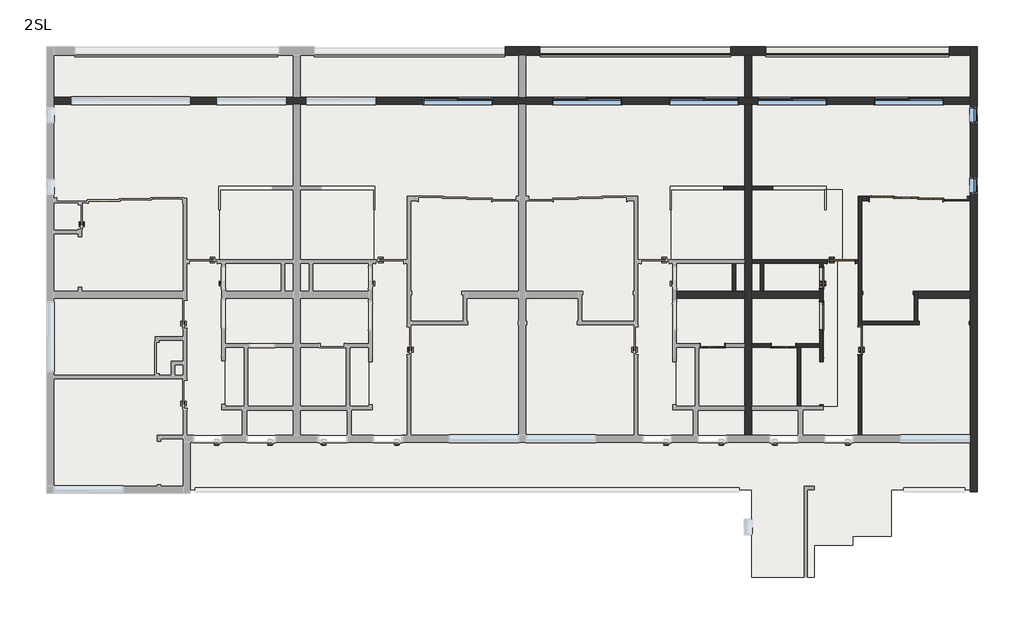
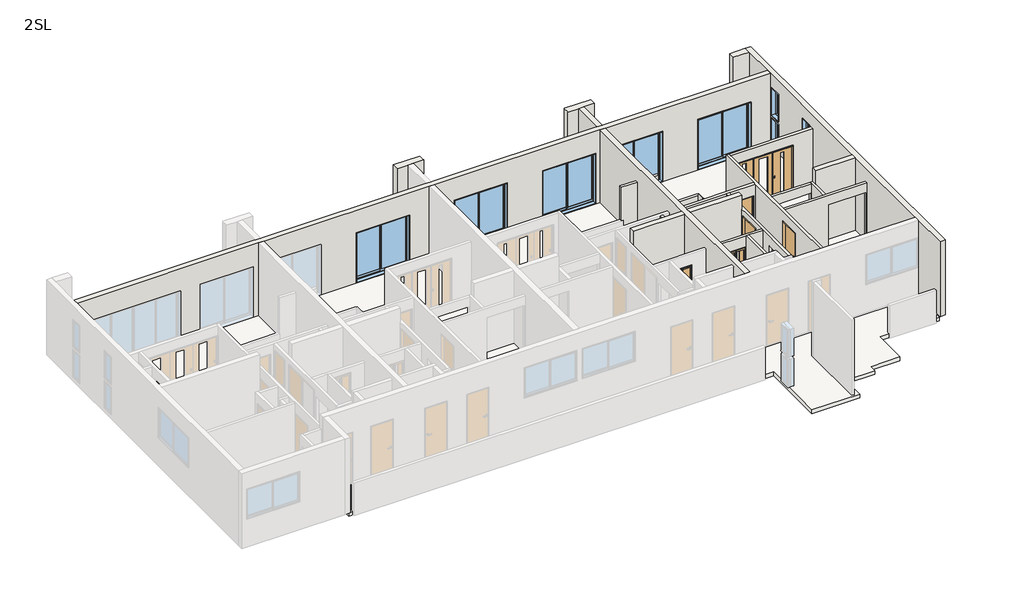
# One storey, part 3 of 3: 25 walls, 13 slabs, 9 windows, 7 doors, 4 railings, 2 plates.
"""IFC4 building model written with IfcOpenShell, lengths in millimetres."""

from ifc_helpers import new_model, si_unit, frame, origin, place, context, project, spatial, polyline, outline, extrude, faceted_brep, transform, mapped, element, save
from components import door_c7dcdbed, door_8f2de950, door_3b96e66a, door_6eb1cc95, door_aabc7979, door_3f60c47c, door_31a51f76, system_panel_37aab131, system_panel_3b8cd947, railing_1331f4de, railing_587aa39a, railing_6a31d35b, railing_5367abb0, window_4c3e1407, window_5dc29a3f, window_ec430ee0, window_a2a98c4b, w0450_h1100_93ba837a, w0450_h1100_e5a89885

model = new_model("IFC4")

# Units and contexts
model_context = context("Model", 3, world=origin())
ifc_project = project(units=[si_unit("LENGTHUNIT", "METRE", prefix="MILLI")], contexts=[model_context])

# Site, building, storey
site = spatial("IfcSite", under=ifc_project)
building = spatial("IfcBuilding", under=site)
storey = spatial("IfcBuildingStorey", under=building, Name="2SL", Elevation=4000.0)

# Doors
placement = place(None, origin())
door_shape = door_c7dcdbed(model_context)
element("IfcDoor", 1, ObjectType="木製_片開き_フラッシュ : WD-2 w600h2000", at=placement, inside=storey, context=model_context, shape_type="MappedRepresentation", body=[
    mapped(door_shape, transform((11454.3805905, 3696.254513, 4210.0), x_axis=(0.0, 1.0, 0.0), y_axis=(-1.0, 0.0, 0.0), z_axis=(0.0, 0.0, 1.0))),
])
door_2_shape = door_8f2de950(model_context)
element("IfcDoor", 2, ObjectType="木製_片開き_フラッシュ : WD-1\u3000w800h2000", at=placement, inside=storey, context=model_context, shape_type="MappedRepresentation", body=[
    mapped(door_2_shape, transform((12554.3805905, 1900.2598658, 4060.0), x_axis=(0.0, 1.0, 0.0), y_axis=(-1.0, 0.0, 0.0), z_axis=(0.0, 0.0, 1.0))),
])
door_3_shape = door_3b96e66a(model_context)
element("IfcDoor", 3, ObjectType="木製_片開き_フラッシュ : WD-1\u3000w800h2000", at=placement, inside=storey, context=model_context, shape_type="MappedRepresentation", body=[
    mapped(door_3_shape, transform((12014.3805905, 4160.2598658, 4000.0), x_axis=(1.0, 0.0, 0.0), y_axis=(0.0, 1.0, 0.0), z_axis=(0.0, 0.0, 1.0))),
])
door_4_shape = door_6eb1cc95(model_context)
element("IfcDoor", 4, ObjectType="木製_折戸2枚_フラッシュ(UB) : UB-1 w600h2000", at=placement, inside=storey, context=model_context, shape_type="MappedRepresentation", body=[
    mapped(door_4_shape, transform((8344.3805905, 1760.2598658, 4000.0), x_axis=(1.0, 0.0, 0.0), y_axis=(0.0, 1.0, 0.0), z_axis=(0.0, 0.0, 1.0))),
])
door_5_shape = door_aabc7979(model_context)
element("IfcDoor", 5, ObjectType="木製_折戸2枚_フラッシュ(UB) : UB-1 w600h2000", at=placement, inside=storey, context=model_context, shape_type="MappedRepresentation", body=[
    mapped(door_5_shape, transform((10364.3805905, 1760.2598658, 4000.0), x_axis=(-1.0, 0.0, 0.0), y_axis=(0.0, -1.0, 0.0), z_axis=(0.0, 0.0, 1.0))),
])
door_6_shape = door_3f60c47c(model_context)
element("IfcDoor", 6, ObjectType="木製_片引き_フラッシュ : WD-4 w800h2000", at=placement, inside=storey, context=model_context, shape_type="MappedRepresentation", body=[
    mapped(door_6_shape, transform((11454.3805905, 2610.719009, 4210.0), x_axis=(0.0, -1.0, 0.0), y_axis=(1.0, 0.0, 0.0), z_axis=(0.0, 0.0, 1.0))),
])
door_7_shape = door_31a51f76(model_context)
element("IfcDoor", 7, ObjectType="木製_片引き3枚_フラッシュ2 : WD-9 w2100h2000", at=placement, inside=storey, context=model_context, shape_type="MappedRepresentation", body=[
    mapped(door_7_shape, transform((13879.9160944, 5960.2598658, 4060.0), x_axis=(1.0, 0.0, 0.0), y_axis=(0.0, 1.0, 0.0), z_axis=(0.0, 0.0, 1.0))),
])

# Plates
system_panel_shape = system_panel_37aab131(model_context)
element("IfcPlate", 8, ObjectType="システム パネル : System Panel", at=placement, inside=storey, context=model_context, shape_type="MappedRepresentation", body=[
    mapped(system_panel_shape, transform((6129.3805905, 10097.7598658, 4000.0), x_axis=(1.0, 0.0, 0.0), y_axis=(0.0, 1.0, 0.0), z_axis=(0.0, 0.0, 1.0))),
])
system_panel_2_shape = system_panel_3b8cd947(model_context)
element("IfcPlate", 9, ObjectType="システム パネル : System Panel", at=placement, inside=storey, context=model_context, shape_type="MappedRepresentation", body=[
    mapped(system_panel_2_shape, transform((12479.3805905, 10097.7598658, 4000.0), x_axis=(-1.0, 0.0, 0.0), y_axis=(0.0, -1.0, 0.0), z_axis=(0.0, 0.0, 1.0))),
])

# Railings
railing_shape = railing_1331f4de(model_context)
element("IfcRailing", 10, ObjectType="バルコニー手摺", at=placement, inside=storey, context=model_context, shape_type="MappedRepresentation", body=[
    mapped(railing_shape, transform((0.0, 0.0, 0.0), x_axis=(1.0, 0.0, 0.0), y_axis=(0.0, 1.0, 0.0), z_axis=(0.0, 0.0, 1.0))),
])
railing_2_shape = railing_587aa39a(model_context)
element("IfcRailing", 11, ObjectType="バルコニー手摺", at=placement, inside=storey, context=model_context, shape_type="MappedRepresentation", body=[
    mapped(railing_2_shape, transform((0.0, 0.0, 0.0), x_axis=(1.0, 0.0, 0.0), y_axis=(0.0, 1.0, 0.0), z_axis=(0.0, 0.0, 1.0))),
])
railing_3_shape = railing_6a31d35b(model_context)
element("IfcRailing", 12, ObjectType="バルコニー手摺", at=placement, inside=storey, context=model_context, shape_type="MappedRepresentation", body=[
    mapped(railing_3_shape, transform((0.0, 0.0, 0.0), x_axis=(1.0, 0.0, 0.0), y_axis=(0.0, 1.0, 0.0), z_axis=(0.0, 0.0, 1.0))),
])
railing_4_shape = railing_5367abb0(model_context)
element("IfcRailing", 13, ObjectType="バルコニー手摺", at=placement, inside=storey, context=model_context, shape_type="MappedRepresentation", body=[
    mapped(railing_4_shape, transform((0.0, 0.0, 0.0), x_axis=(1.0, 0.0, 0.0), y_axis=(0.0, 1.0, 0.0), z_axis=(0.0, 0.0, 1.0))),
])

# Slabs
element("IfcSlab", 14, ObjectType="SCON150", at=placement, inside=storey, context=model_context, shape_type="SweptSolid", body=[
    extrude(outline(polyline([(-10495.6194095, 10059.9866207), (-3645.6194095, 10059.9866207), (-3645.6194095, 8760.2598658), (-10495.6194095, 8760.2598658), (-10495.6194095, 10059.9866207)])), frame((0.0, 0.0, 3750.0), z_axis=(0.0, 0.0, 1.0), x_axis=(1.0, 0.0, 0.0)), (0.0, 0.0, 1.0), 150.0),
])
element("IfcSlab", 15, ObjectType="SCON150", at=placement, inside=storey, context=model_context, shape_type="SweptSolid", body=[
    extrude(outline(polyline([(15704.3805905, 8760.2598658), (9454.3805905, 8760.2598658), (9454.3805905, 10059.9866207), (15704.3805905, 10059.9866207), (15704.3805905, 8760.2598658)])), frame((0.0, 0.0, 3750.0), z_axis=(0.0, 0.0, 1.0), x_axis=(1.0, 0.0, 0.0)), (0.0, 0.0, 1.0), 150.0),
])
element("IfcSlab", 16, ObjectType="SCON150+100", at=placement, inside=storey, context=model_context, shape_type="SweptSolid", body=[
    extrude(outline(polyline([(-10495.6194095, 8760.2598658), (-3645.6194095, 8760.2598658), (-3645.6194095, 6215.254513), (-5745.6194095, 6215.254513), (-5745.6194095, 4210.2598658), (-5595.6194095, 4210.2598658), (-5595.6194095, 30.2598658), (-3645.6194095, 30.2598658), (-3645.6194095, -809.7401342), (-6795.6194095, -809.7401342), (-6795.6194095, -2259.7401342), (-10495.6194095, -2259.7401342), (-10495.6194095, 8760.2598658)])), frame((0.0, 0.0, 3850.0), z_axis=(0.0, 0.0, 1.0), x_axis=(1.0, 0.0, 0.0)), (0.0, 0.0, 1.0), 250.0),
])
element("IfcSlab", 17, ObjectType="SCON150+210", at=placement, inside=storey, context=model_context, shape_type="SweptSolid", body=[
    extrude(outline(polyline([(-5745.6194095, 6215.254513), (-3645.6194095, 6215.254513), (-3645.6194095, 30.2598658), (-5595.6194095, 30.2598658), (-5595.6194095, 4210.2598658), (-5745.6194095, 4210.2598658), (-5745.6194095, 6215.254513)])), frame((0.0, 0.0, 3850.0), z_axis=(0.0, 0.0, 1.0), x_axis=(1.0, 0.0, 0.0)), (0.0, 0.0, 1.0), 360.0),
])
element("IfcSlab", 18, ObjectType="SCON150+100", at=placement, inside=storey, context=model_context, shape_type="SweptSolid", body=[
    extrude(outline(polyline([(2804.3805905, 8760.2598658), (2804.3805905, -809.7401342), (-3445.6194095, -809.7401342), (-3445.6194095, 30.2598658), (-1495.6194095, 30.2598658), (-1495.6194095, 4210.2598658), (-1345.6194095, 4210.2598658), (-1345.6194095, 6215.254513), (-3445.6194095, 6215.254513), (-3445.6194095, 8760.2598658), (2804.3805905, 8760.2598658)])), frame((0.0, 0.0, 3850.0), z_axis=(0.0, 0.0, 1.0), x_axis=(1.0, 0.0, 0.0)), (0.0, 0.0, 1.0), 250.0),
])
element("IfcSlab", 19, ObjectType="SCON150+210", at=placement, inside=storey, context=model_context, shape_type="SweptSolid", body=[
    extrude(outline(polyline([(-1345.6194095, 6215.254513), (-1345.6194095, 4210.2598658), (-1495.6194095, 4210.2598658), (-1495.6194095, 30.2598658), (-3445.6194095, 30.2598658), (-3445.6194095, 6215.254513), (-1345.6194095, 6215.254513)])), frame((0.0, 0.0, 3850.0), z_axis=(0.0, 0.0, 1.0), x_axis=(1.0, 0.0, 0.0)), (0.0, 0.0, 1.0), 360.0),
])
element("IfcSlab", 20, ObjectType="SCON150+100", at=placement, inside=storey, context=model_context, shape_type="SweptSolid", body=[
    extrude(outline(polyline([(3004.3805905, 8660.2598658), (9254.3805905, 8660.2598658), (9254.3805905, 6215.254513), (7154.3805905, 6215.254513), (7154.3805905, 4210.2598658), (7304.3805905, 4210.2598658), (7304.3805905, 30.2598658), (9254.3805905, 30.2598658), (9254.3805905, -809.7401342), (3004.3805905, -809.7401342), (3004.3805905, 8660.2598658)])), frame((0.0, 0.0, 3850.0), z_axis=(0.0, 0.0, 1.0), x_axis=(1.0, 0.0, 0.0)), (0.0, 0.0, 1.0), 250.0),
])
element("IfcSlab", 21, ObjectType="SCON150+210", at=placement, inside=storey, context=model_context, shape_type="SweptSolid", body=[
    extrude(outline(polyline([(7154.3805905, 6215.254513), (9254.3805905, 6215.254513), (9254.3805905, 30.2598658), (7304.3805905, 30.2598658), (7304.3805905, 4210.2598658), (7154.3805905, 4210.2598658), (7154.3805905, 6215.254513)])), frame((0.0, 0.0, 3850.0), z_axis=(0.0, 0.0, 1.0), x_axis=(1.0, 0.0, 0.0)), (0.0, 0.0, 1.0), 360.0),
])
element("IfcSlab", 22, ObjectType="SCON150+100", at=placement, inside=storey, context=model_context, shape_type="SweptSolid", body=[
    extrude(outline(polyline([(15704.3805905, -809.7401342), (9454.3805905, -809.7401342), (9454.3805905, 30.2598658), (11904.3805905, 30.2598658), (11904.3805905, 4210.2598658), (12054.3805905, 4210.2598658), (12054.3805905, 6215.254513), (9454.3805905, 6215.254513), (9454.3805905, 8660.2598658), (15704.3805905, 8660.2598658), (15704.3805905, -809.7401342)])), frame((0.0, 0.0, 3850.0), z_axis=(0.0, 0.0, 1.0), x_axis=(1.0, 0.0, 0.0)), (0.0, 0.0, 1.0), 250.0),
])
element("IfcSlab", 23, ObjectType="SCON150+210", at=placement, inside=storey, context=model_context, shape_type="SweptSolid", body=[
    extrude(outline(polyline([(12054.3805905, 6215.254513), (12054.3805905, 4210.2598658), (11904.3805905, 4210.2598658), (11904.3805905, 30.2598658), (9454.3805905, 30.2598658), (9454.3805905, 6215.254513), (12054.3805905, 6215.254513)])), frame((0.0, 0.0, 3850.0), z_axis=(0.0, 0.0, 1.0), x_axis=(1.0, 0.0, 0.0)), (0.0, 0.0, 1.0), 360.0),
])
element("IfcSlab", 24, ObjectType="SCON150", at=placement, inside=storey, context=model_context, shape_type="SweptSolid", body=[
    extrude(outline(polyline([(-6595.6194095, -1009.7401342), (15704.3805905, -1009.7401342), (15704.3805905, -2359.7401342), (13454.3805905, -2359.7401342), (13454.3805905, -3689.7401342), (12354.3805905, -3689.7401342), (12354.3805905, -3949.7401342), (11254.3805905, -3949.7401342), (11254.3805905, -4869.7401342), (9454.3805905, -4869.7401342), (9454.3805905, -2359.7401342), (-6595.6194095, -2359.7401342), (-6595.6194095, -1009.7401342)])), frame((0.0, 0.0, 3800.0), z_axis=(0.0, 0.0, 1.0), x_axis=(1.0, 0.0, 0.0)), (0.0, 0.0, 1.0), 150.0),
])
element("IfcSlab", 25, ObjectType="SCON150", at=placement, inside=storey, context=model_context, shape_type="SweptSolid", body=[
    extrude(outline(polyline([(3004.3805905, 10059.9866207), (9254.3805905, 10059.9866207), (9254.3805905, 8760.2598658), (3004.3805905, 8760.2598658), (3004.3805905, 10059.9866207)])), frame((0.0, 0.0, 3750.0), z_axis=(0.0, 0.0, 1.0), x_axis=(1.0, 0.0, 0.0)), (0.0, 0.0, 1.0), 150.0),
])
element("IfcSlab", 26, ObjectType="SCON150", at=placement, inside=storey, context=model_context, shape_type="SweptSolid", body=[
    extrude(outline(polyline([(2804.3805905, 10099.9866207), (2804.3805905, 8760.2598658), (-3445.6194095, 8760.2598658), (-3445.6194095, 10099.9866207), (2804.3805905, 10099.9866207)])), frame((0.0, 0.0, 3800.0), z_axis=(0.0, 0.0, 1.0), x_axis=(1.0, 0.0, 0.0)), (0.0, 0.0, 1.0), 150.0),
])

# Walls
element("IfcWall", 27, ObjectType="(F)30", at=placement, inside=storey, context=model_context, shape_type="Brep", body=[
    faceted_brep([(11553.8805905, 6215.254513, 4060.0), (11553.8805905, 5645.254513, 4060.0), (11553.8805905, 5645.254513, 5120.0), (11553.8805905, 6215.254513, 5120.0), (11583.8805905, 6215.254513, 4060.0), (11583.8805905, 6215.254513, 5060.0), (11583.8805905, 6215.254513, 5120.0), (11583.8805905, 5645.254513, 5120.0), (11583.8805905, 5645.254513, 4060.0)], [[[0, 1, 2, 3]], [[4, 5, 6, 7, 8]], [[1, 0, 4, 8]], [[2, 1, 8, 7]], [[3, 2, 7, 6]], [[0, 3, 6, 5, 4]]]),
])
element("IfcWall", 28, ObjectType="(L)100", at=placement, inside=storey, context=model_context, shape_type="SweptSolid", body=[
    extrude(outline(polyline([(9254.3805905, 6215.254513), (8654.3805905, 6215.254513), (8654.3805905, 6315.254513), (9254.3805905, 6315.254513), (9254.3805905, 6215.254513)])), frame((0.0, 0.0, 4000.0), z_axis=(0.0, 0.0, 1.0), x_axis=(1.0, 0.0, 0.0)), (0.0, 0.0, 1.0), 2400.0),
])
element("IfcWall", 29, ObjectType="(L)100", at=placement, inside=storey, context=model_context, shape_type="SweptSolid", body=[
    extrude(outline(polyline([(8904.3805905, 3310.2598658), (8904.3805905, 4110.2598658), (9004.3805905, 4110.2598658), (9004.3805905, 3310.2598658), (8904.3805905, 3310.2598658)])), frame((0.0, 0.0, 4000.0), z_axis=(0.0, 0.0, 1.0), x_axis=(1.0, 0.0, 0.0)), (0.0, 0.0, 1.0), 2460.0),
])
element("IfcWall", 30, ObjectType="(L)100", at=placement, inside=storey, context=model_context, shape_type="Brep", body=[
    faceted_brep([(12504.3805905, 1480.2598658, 6080.0), (12504.3805905, 1480.2598658, 4060.0), (12504.3805905, -809.7401342, 4060.0), (12504.3805905, -809.7401342, 6460.0), (12504.3805905, 4110.2598658, 6460.0), (12504.3805905, 4210.2598658, 6460.0), (12504.3805905, 6022.7598658, 6460.0), (12504.3805905, 6022.7598658, 4060.0), (12504.3805905, 2320.2598658, 4060.0), (12504.3805905, 2320.2598658, 6080.0), (12604.3805905, -809.7401342, 4060.0), (12604.3805905, 1480.2598658, 4060.0), (12604.3805905, 1480.2598658, 6080.0), (12604.3805905, 2320.2598658, 6080.0), (12604.3805905, 2320.2598658, 4060.0), (12604.3805905, 2360.2598658, 4060.0), (12604.3805905, 2460.2598658, 4060.0), (12604.3805905, 5897.7598658, 4060.0), (12604.3805905, 6022.7598658, 4060.0), (12604.3805905, 6022.7598658, 6460.0), (12604.3805905, 5897.7598658, 6460.0), (12604.3805905, 3310.2598658, 6460.0), (12604.3805905, 3210.2598658, 6460.0), (12604.3805905, 2460.2598658, 6460.0), (12604.3805905, 2360.2598658, 6460.0), (12604.3805905, -809.7401342, 6460.0)], [[[0, 1, 2, 3, 4, 5, 6, 7, 8, 9]], [[10, 11, 12, 13, 14, 15, 16, 17, 18, 19, 20, 21, 22, 23, 24, 25]], [[2, 1, 11, 10]], [[8, 7, 18, 17, 16, 15, 14]], [[6, 5, 4, 3, 25, 24, 23, 22, 21, 20, 19]], [[7, 6, 19, 18]], [[3, 2, 10, 25]], [[14, 13, 9, 8]], [[12, 11, 1, 0]], [[13, 12, 0, 9]]]),
])
element("IfcWall", 31, ObjectType="(L)100", at=placement, inside=storey, context=model_context, shape_type="Brep", body=[
    faceted_brep([(15704.3805905, 2460.2598658, 4060.0), (15684.3805905, 2460.2598658, 4060.0), (15684.3805905, 2460.2598658, 6080.0), (14244.3805905, 2460.2598658, 6080.0), (14244.3805905, 2460.2598658, 4060.0), (12604.3805905, 2460.2598658, 4060.0), (12604.3805905, 2460.2598658, 6460.0), (14104.3805905, 2460.2598658, 6460.0), (14204.3805905, 2460.2598658, 6460.0), (15704.3805905, 2460.2598658, 6460.0), (15684.3805905, 2360.2598658, 6080.0), (15684.3805905, 2360.2598658, 4060.0), (15704.3805905, 2360.2598658, 4060.0), (15704.3805905, 2360.2598658, 6460.0), (12604.3805905, 2360.2598658, 6460.0), (12604.3805905, 2360.2598658, 4060.0), (14244.3805905, 2360.2598658, 4060.0), (14244.3805905, 2360.2598658, 6080.0)], [[[0, 1, 2, 3, 4, 5, 6, 7, 8, 9]], [[10, 11, 12, 13, 14, 15, 16, 17]], [[12, 11, 1, 0]], [[16, 15, 5, 4]], [[9, 8, 7, 6, 14, 13]], [[0, 9, 13, 12]], [[6, 5, 15, 14]], [[4, 3, 17, 16]], [[2, 1, 11, 10]], [[3, 2, 10, 17]]]),
])
element("IfcWall", 32, ObjectType="(L)100", at=placement, inside=storey, context=model_context, shape_type="Brep", body=[
    faceted_brep([(14104.3805905, 3310.2598658, 4000.0), (14104.3805905, 3210.2598658, 4000.0), (14104.3805905, 2460.2598658, 4000.0), (14104.3805905, 2460.2598658, 6460.0), (14104.3805905, 3210.2598658, 6460.0), (14104.3805905, 3310.2598658, 6460.0), (14204.3805905, 3310.2598658, 4000.0), (14204.3805905, 3310.2598658, 6460.0), (14204.3805905, 2460.2598658, 6460.0), (14204.3805905, 2460.2598658, 4000.0), (14204.3805905, 3110.2598658, 4000.0)], [[[0, 1, 2, 3, 4, 5]], [[6, 7, 8, 9, 10]], [[2, 1, 0, 6, 10, 9]], [[5, 4, 3, 8, 7]], [[0, 5, 7, 6]], [[3, 2, 9, 8]]]),
])
element("IfcWall", 33, ObjectType="(L)100", at=placement, inside=storey, context=model_context, shape_type="Brep", body=[
    faceted_brep([(11504.3805905, 4110.2598658, 6460.0), (11504.3805905, 30.2598658, 6460.0), (11504.3805905, 30.2598658, 4060.0), (11504.3805905, 60.2598658, 4060.0), (11504.3805905, 60.2598658, 6080.0), (11504.3805905, 1300.2598658, 6080.0), (11504.3805905, 1300.2598658, 4060.0), (11504.3805905, 4110.2598658, 4060.0), (11504.3805905, 1396.254513, 6230.0), (11504.3805905, 3036.254513, 6230.0), (11504.3805905, 3036.254513, 4210.0), (11504.3805905, 1396.254513, 4210.0), (11504.3805905, 4016.254513, 6230.0), (11504.3805905, 4016.254513, 4210.0), (11504.3805905, 3376.254513, 4210.0), (11504.3805905, 3376.254513, 6230.0), (11404.3805905, 30.2598658, 6460.0), (11404.3805905, 1710.2598658, 6460.0), (11404.3805905, 1810.2598658, 6460.0), (11404.3805905, 4110.2598658, 6460.0), (11404.3805905, 4110.2598658, 4060.0), (11404.3805905, 1300.2598658, 4060.0), (11404.3805905, 1300.2598658, 6080.0), (11404.3805905, 60.2598658, 6080.0), (11404.3805905, 60.2598658, 4060.0), (11404.3805905, 30.2598658, 4060.0), (11404.3805905, 3036.254513, 6230.0), (11404.3805905, 2196.254513, 6230.0), (11404.3805905, 2196.254513, 4210.0), (11404.3805905, 3036.254513, 4210.0), (11404.3805905, 4016.254513, 4210.0), (11404.3805905, 4016.254513, 6230.0), (11404.3805905, 3376.254513, 6230.0), (11404.3805905, 3376.254513, 4210.0), (11474.3805905, 1396.254513, 6230.0), (11474.3805905, 2196.254513, 6230.0), (11474.3805905, 2196.254513, 4210.0), (11474.3805905, 1396.254513, 4210.0)], [[[0, 1, 2, 3, 4, 5, 6, 7], [8, 9, 10, 11], [12, 13, 14, 15]], [[16, 17, 18, 19, 20, 21, 22, 23, 24, 25], [26, 27, 28, 29], [30, 31, 32, 33]], [[20, 7, 6, 21]], [[2, 25, 24, 3]], [[1, 0, 19, 18, 17, 16]], [[0, 7, 20, 19]], [[2, 1, 16, 25]], [[5, 22, 21, 6]], [[23, 4, 3, 24]], [[22, 5, 4, 23]], [[34, 35, 27, 26, 9, 8]], [[9, 26, 29, 10]], [[36, 37, 11, 10, 29, 28]], [[35, 36, 28, 27]], [[35, 34, 37, 36]], [[37, 34, 8, 11]], [[12, 31, 30, 13]], [[13, 30, 33, 14]], [[14, 33, 32, 15]], [[31, 12, 15, 32]]]),
])
element("IfcWall", 34, ObjectType="(L)100", at=placement, inside=storey, context=model_context, shape_type="SweptSolid", body=[
    extrude(outline(polyline([(9454.3805905, 6315.254513), (10054.3805905, 6315.254513), (10054.3805905, 6215.254513), (9454.3805905, 6215.254513), (9454.3805905, 6315.254513)])), frame((0.0, 0.0, 4000.0), z_axis=(0.0, 0.0, 1.0), x_axis=(1.0, 0.0, 0.0)), (0.0, 0.0, 1.0), 2400.0),
])
element("IfcWall", 35, ObjectType="(L)100", at=placement, inside=storey, context=model_context, shape_type="Brep", body=[
    faceted_brep([(9979.3805905, 6215.254513, 4060.0), (11553.8805905, 6215.254513, 4060.0), (11583.8805905, 6215.254513, 4060.0), (11583.8805905, 6215.254513, 5060.0), (9979.3805905, 6215.254513, 5060.0), (9979.3805905, 6315.254513, 4060.0), (9979.3805905, 6315.254513, 5060.0), (11583.8805905, 6315.254513, 5060.0), (11583.8805905, 6315.254513, 4060.0)], [[[0, 1, 2, 3, 4]], [[5, 6, 7, 8]], [[2, 1, 0, 5, 8]], [[4, 3, 7, 6]], [[0, 4, 6, 5]], [[3, 2, 8, 7]]]),
])
element("IfcWall", 36, ObjectType="(L)100", at=placement, inside=storey, context=model_context, shape_type="SweptSolid", body=[
    extrude(outline(polyline([(9704.3805905, 3310.2598658), (9704.3805905, 4110.2598658), (9804.3805905, 4110.2598658), (9804.3805905, 3310.2598658), (9704.3805905, 3310.2598658)])), frame((0.0, 0.0, 4000.0), z_axis=(0.0, 0.0, 1.0), x_axis=(1.0, 0.0, 0.0)), (0.0, 0.0, 1.0), 2460.0),
])
element("IfcWall", 37, ObjectType="(L)100", at=placement, inside=storey, context=model_context, shape_type="Brep", body=[
    faceted_brep([(10734.3805905, 1710.2598658, 6020.0), (10734.3805905, 1710.2598658, 4000.0), (10764.3805905, 1710.2598658, 4000.0), (10864.3805905, 1710.2598658, 4000.0), (11404.3805905, 1710.2598658, 4000.0), (11404.3805905, 1710.2598658, 6460.0), (10864.3805905, 1710.2598658, 6460.0), (10764.3805905, 1710.2598658, 6460.0), (9454.3805905, 1710.2598658, 6460.0), (9454.3805905, 1710.2598658, 4000.0), (9994.3805905, 1710.2598658, 4000.0), (9994.3805905, 1710.2598658, 6020.0), (11404.3805905, 1810.2598658, 4000.0), (10734.3805905, 1810.2598658, 4000.0), (10734.3805905, 1810.2598658, 6020.0), (9994.3805905, 1810.2598658, 6020.0), (9994.3805905, 1810.2598658, 4000.0), (9454.3805905, 1810.2598658, 4000.0), (9454.3805905, 1810.2598658, 6460.0), (11404.3805905, 1810.2598658, 6460.0)], [[[0, 1, 2, 3, 4, 5, 6, 7, 8, 9, 10, 11]], [[12, 13, 14, 15, 16, 17, 18, 19]], [[4, 3, 2, 1, 13, 12]], [[10, 9, 17, 16]], [[8, 7, 6, 5, 19, 18]], [[9, 8, 18, 17]], [[5, 4, 12, 19]], [[16, 15, 11, 10]], [[14, 13, 1, 0]], [[15, 14, 0, 11]]]),
])
element("IfcWall", 38, ObjectType="(L)100", at=placement, inside=storey, context=model_context, shape_type="Brep", body=[
    faceted_brep([(9454.3805905, 4110.2598658, 4000.0), (9704.3805905, 4110.2598658, 4000.0), (9804.3805905, 4110.2598658, 4000.0), (11594.3805905, 4110.2598658, 4000.0), (11594.3805905, 4110.2598658, 6020.0), (12434.3805905, 4110.2598658, 6020.0), (12434.3805905, 4110.2598658, 4000.0), (12504.3805905, 4110.2598658, 4000.0), (12504.3805905, 4110.2598658, 6460.0), (11504.3805905, 4110.2598658, 6460.0), (11404.3805905, 4110.2598658, 6460.0), (9804.3805905, 4110.2598658, 6460.0), (9704.3805905, 4110.2598658, 6460.0), (9454.3805905, 4110.2598658, 6460.0), (11594.3805905, 4210.2598658, 6020.0), (11594.3805905, 4210.2598658, 4000.0), (9454.3805905, 4210.2598658, 4000.0), (9454.3805905, 4210.2598658, 6460.0), (12504.3805905, 4210.2598658, 6460.0), (12504.3805905, 4210.2598658, 4000.0), (12434.3805905, 4210.2598658, 4000.0), (12434.3805905, 4210.2598658, 6020.0)], [[[0, 1, 2, 3, 4, 5, 6, 7, 8, 9, 10, 11, 12, 13]], [[14, 15, 16, 17, 18, 19, 20, 21]], [[16, 15, 3, 2, 1, 0]], [[20, 19, 7, 6]], [[13, 12, 11, 10, 9, 8, 18, 17]], [[0, 13, 17, 16]], [[8, 7, 19, 18]], [[6, 5, 21, 20]], [[4, 3, 15, 14]], [[5, 4, 14, 21]]]),
])
element("IfcWall", 39, ObjectType="(L)100", at=placement, inside=storey, context=model_context, shape_type="SweptSolid", body=[
    extrude(outline(polyline([(4000.0, 12604.3805905), (4000.0, 14104.3805905), (6460.0, 14104.3805905), (6460.0, 12604.3805905), (4000.0, 12604.3805905)]), holes=[polyline([(4060.0, 14074.3805905), (4060.0, 12634.3805905), (6080.0, 12634.3805905), (6080.0, 14074.3805905), (4060.0, 14074.3805905)])]), frame((0.0, 3210.2598658, 0.0), z_axis=(0.0, 1.0, 0.0), x_axis=(0.0, 0.0, 1.0)), (0.0, 0.0, 1.0), 100.0),
])
element("IfcWall", 40, ObjectType="(L)100", at=placement, inside=storey, context=model_context, shape_type="SweptSolid", body=[
    extrude(outline(polyline([(10764.3805905, 30.2598658), (10764.3805905, 1710.2598658), (10864.3805905, 1710.2598658), (10864.3805905, 30.2598658), (10764.3805905, 30.2598658)])), frame((0.0, 0.0, 4000.0), z_axis=(0.0, 0.0, 1.0), x_axis=(1.0, 0.0, 0.0)), (0.0, 0.0, 1.0), 2460.0),
])
element("IfcWall", 41, ObjectType="(L1)125", at=placement, inside=storey, context=model_context, shape_type="Brep", body=[
    faceted_brep([(15704.3805905, 5897.7598658, 6460.0), (12604.3805905, 5897.7598658, 6460.0), (12604.3805905, 5897.7598658, 4060.0), (12804.3805905, 5897.7598658, 4060.0), (12804.3805905, 5897.7598658, 6080.0), (14944.3805905, 5897.7598658, 6080.0), (14944.3805905, 5897.7598658, 4060.0), (15704.3805905, 5897.7598658, 4060.0), (12604.3805905, 6022.7598658, 6460.0), (15704.3805905, 6022.7598658, 6460.0), (15704.3805905, 6022.7598658, 4060.0), (15644.3805905, 6022.7598658, 4060.0), (15644.3805905, 6022.7598658, 6080.0), (12804.3805905, 6022.7598658, 6080.0), (12804.3805905, 6022.7598658, 4060.0), (12604.3805905, 6022.7598658, 4060.0), (14944.3805905, 5932.7598658, 4060.0), (15644.3805905, 5932.7598658, 4060.0), (15644.3805905, 5932.7598658, 6080.0), (14944.3805905, 5932.7598658, 6080.0)], [[[0, 1, 2, 3, 4, 5, 6, 7]], [[8, 9, 10, 11, 12, 13, 14, 15]], [[10, 7, 6, 16, 17, 11]], [[2, 15, 14, 3]], [[1, 0, 9, 8]], [[0, 7, 10, 9]], [[2, 1, 8, 15]], [[18, 19, 5, 4, 13, 12]], [[13, 4, 3, 14]], [[19, 16, 6, 5]], [[19, 18, 17, 16]], [[17, 18, 12, 11]]]),
])
element("IfcWall", 42, ObjectType="(R)200", at=placement, inside=storey, context=model_context, shape_type="Brep", body=[
    faceted_brep([(15704.3805905, 8860.2598658, 4000.0), (9454.3805905, 8860.2598658, 4000.0), (9254.3805905, 8860.2598658, 4000.0), (3004.3805905, 8860.2598658, 4000.0), (2804.3805905, 8860.2598658, 4000.0), (-3445.6194095, 8860.2598658, 4000.0), (-3645.6194095, 8860.2598658, 4000.0), (-10495.6194095, 8860.2598658, 4000.0), (-10495.6194095, 8860.2598658, 7000.0), (-3645.6194095, 8860.2598658, 7000.0), (-3445.6194095, 8860.2598658, 7000.0), (2804.3805905, 8860.2598658, 7000.0), (3004.3805905, 8860.2598658, 7000.0), (9254.3805905, 8860.2598658, 7000.0), (9454.3805905, 8860.2598658, 7000.0), (15704.3805905, 8860.2598658, 7000.0), (14954.3805905, 8860.2598658, 4120.0), (14954.3805905, 8860.2598658, 6120.0), (12954.3805905, 8860.2598658, 6120.0), (12954.3805905, 8860.2598658, 4120.0), (11614.3805905, 8860.2598658, 4120.0), (11614.3805905, 8860.2598658, 6120.0), (9614.3805905, 8860.2598658, 6120.0), (9614.3805905, 8860.2598658, 4120.0), (5754.3805905, 8860.2598658, 4120.0), (5754.3805905, 8860.2598658, 6120.0), (3754.3805905, 8860.2598658, 6120.0), (3754.3805905, 8860.2598658, 4120.0), (7094.3805905, 8860.2598658, 4120.0), (9094.3805905, 8860.2598658, 4120.0), (9094.3805905, 8860.2598658, 6120.0), (7094.3805905, 8860.2598658, 6120.0), (54.3805905, 8860.2598658, 4120.0), (2054.3805905, 8860.2598658, 4120.0), (2054.3805905, 8860.2598658, 6120.0), (54.3805905, 8860.2598658, 6120.0), (-9994.6785744, 8860.2598658, 4120.0), (-6594.6785744, 8860.2598658, 4120.0), (-6594.6785744, 8860.2598658, 6120.0), (-9994.6785744, 8860.2598658, 6120.0), (-1285.6194095, 8860.2598658, 4120.0), (-1285.6194095, 8860.2598658, 6120.0), (-3285.6194095, 8860.2598658, 6120.0), (-3285.6194095, 8860.2598658, 4120.0), (-5845.6194095, 8860.2598658, 4120.0), (-3845.6194095, 8860.2598658, 4120.0), (-3845.6194095, 8860.2598658, 6120.0), (-5845.6194095, 8860.2598658, 6120.0), (15704.3805905, 8660.2598658, 4000.0), (15704.3805905, 8660.2598658, 7000.0), (9454.3805905, 8660.2598658, 7000.0), (9254.3805905, 8660.2598658, 7000.0), (3004.3805905, 8660.2598658, 7000.0), (2804.3805905, 8660.2598658, 7000.0), (-3445.6194095, 8660.2598658, 7000.0), (-3645.6194095, 8660.2598658, 7000.0), (-10495.6194095, 8660.2598658, 7000.0), (-10495.6194095, 8660.2598658, 4000.0), (-3645.6194095, 8660.2598658, 4000.0), (-3445.6194095, 8660.2598658, 4000.0), (2804.3805905, 8660.2598658, 4000.0), (3004.3805905, 8660.2598658, 4000.0), (9254.3805905, 8660.2598658, 4000.0), (9454.3805905, 8660.2598658, 4000.0), (14954.3805905, 8660.2598658, 4120.0), (12954.3805905, 8660.2598658, 4120.0), (12954.3805905, 8660.2598658, 6120.0), (14954.3805905, 8660.2598658, 6120.0), (11614.3805905, 8660.2598658, 4120.0), (9614.3805905, 8660.2598658, 4120.0), (9614.3805905, 8660.2598658, 6120.0), (11614.3805905, 8660.2598658, 6120.0), (5754.3805905, 8660.2598658, 4120.0), (3754.3805905, 8660.2598658, 4120.0), (3754.3805905, 8660.2598658, 6120.0), (5754.3805905, 8660.2598658, 6120.0), (7094.3805905, 8660.2598658, 4120.0), (7094.3805905, 8660.2598658, 6120.0), (9094.3805905, 8660.2598658, 6120.0), (9094.3805905, 8660.2598658, 4120.0), (54.3805905, 8660.2598658, 4120.0), (54.3805905, 8660.2598658, 6120.0), (2054.3805905, 8660.2598658, 6120.0), (2054.3805905, 8660.2598658, 4120.0), (-9994.6785744, 8660.2598658, 4120.0), (-9994.6785744, 8660.2598658, 6120.0), (-6594.6785744, 8660.2598658, 6120.0), (-6594.6785744, 8660.2598658, 4120.0), (-1285.6194095, 8660.2598658, 4120.0), (-3285.6194095, 8660.2598658, 4120.0), (-3285.6194095, 8660.2598658, 6120.0), (-1285.6194095, 8660.2598658, 6120.0), (-5845.6194095, 8660.2598658, 4120.0), (-5845.6194095, 8660.2598658, 6120.0), (-3845.6194095, 8660.2598658, 6120.0), (-3845.6194095, 8660.2598658, 4120.0)], [[[0, 1, 2, 3, 4, 5, 6, 7, 8, 9, 10, 11, 12, 13, 14, 15], [16, 17, 18, 19], [20, 21, 22, 23], [24, 25, 26, 27], [28, 29, 30, 31], [32, 33, 34, 35], [36, 37, 38, 39], [40, 41, 42, 43], [44, 45, 46, 47]], [[48, 49, 50, 51, 52, 53, 54, 55, 56, 57, 58, 59, 60, 61, 62, 63], [64, 65, 66, 67], [68, 69, 70, 71], [72, 73, 74, 75], [76, 77, 78, 79], [80, 81, 82, 83], [84, 85, 86, 87], [88, 89, 90, 91], [92, 93, 94, 95]], [[7, 6, 5, 4, 3, 2, 1, 0, 48, 63, 62, 61, 60, 59, 58, 57]], [[15, 14, 13, 12, 11, 10, 9, 8, 56, 55, 54, 53, 52, 51, 50, 49]], [[0, 15, 49, 48]], [[8, 7, 57, 56]], [[17, 16, 64, 67]], [[18, 17, 67, 66]], [[19, 18, 66, 65]], [[16, 19, 65, 64]], [[21, 20, 68, 71]], [[22, 21, 71, 70]], [[23, 22, 70, 69]], [[20, 23, 69, 68]], [[25, 24, 72, 75]], [[26, 25, 75, 74]], [[27, 26, 74, 73]], [[24, 27, 73, 72]], [[77, 76, 28, 31]], [[78, 77, 31, 30]], [[79, 78, 30, 29]], [[76, 79, 29, 28]], [[81, 80, 32, 35]], [[82, 81, 35, 34]], [[83, 82, 34, 33]], [[80, 83, 33, 32]], [[85, 84, 36, 39]], [[86, 85, 39, 38]], [[87, 86, 38, 37]], [[84, 87, 37, 36]], [[41, 40, 88, 91]], [[42, 41, 91, 90]], [[43, 42, 90, 89]], [[40, 43, 89, 88]], [[93, 92, 44, 47]], [[94, 93, 47, 46]], [[95, 94, 46, 45]], [[92, 95, 45, 44]]]),
])
element("IfcWall", 43, ObjectType="(R)200", at=placement, inside=storey, context=model_context, shape_type="Brep", body=[
    faceted_brep([(15704.3805905, 10309.9866207, 4000.0), (15704.3805905, 10059.9866207, 4000.0), (15704.3805905, 8860.2598658, 4000.0), (15704.3805905, 8660.2598658, 4000.0), (15704.3805905, 3310.2598658, 4000.0), (15704.3805905, 3110.2598658, 4000.0), (15704.3805905, -809.7401342, 4000.0), (15704.3805905, -1009.7401342, 4000.0), (15704.3805905, -2419.7401342, 4000.0), (15704.3805905, -2419.7401342, 7000.0), (15704.3805905, -1009.7401342, 7000.0), (15704.3805905, -809.7401342, 7000.0), (15704.3805905, 3110.2598658, 7000.0), (15704.3805905, 3310.2598658, 7000.0), (15704.3805905, 8660.2598658, 7000.0), (15704.3805905, 8860.2598658, 7000.0), (15704.3805905, 10059.9866207, 7000.0), (15704.3805905, 10309.9866207, 7000.0), (15704.3805905, 6560.2491602, 5380.0), (15704.3805905, 6560.2491602, 6480.0), (15704.3805905, 6110.2491602, 6480.0), (15704.3805905, 6110.2491602, 5380.0), (15704.3805905, 8130.2598658, 5380.0), (15704.3805905, 8580.2598658, 5380.0), (15704.3805905, 8580.2598658, 6480.0), (15704.3805905, 8130.2598658, 6480.0), (15704.3805905, 6560.2491602, 4180.0), (15704.3805905, 6560.2491602, 5280.0), (15704.3805905, 6110.2491602, 5280.0), (15704.3805905, 6110.2491602, 4180.0), (15704.3805905, 8130.2598658, 4180.0), (15704.3805905, 8580.2598658, 4180.0), (15704.3805905, 8580.2598658, 5280.0), (15704.3805905, 8130.2598658, 5280.0), (15904.3805905, 10309.9866207, 4000.0), (15904.3805905, 10309.9866207, 7000.0), (15904.3805905, -2419.7401342, 7000.0), (15904.3805905, -2419.7401342, 4000.0), (15904.3805905, 6560.2491602, 5380.0), (15904.3805905, 6110.2491602, 5380.0), (15904.3805905, 6110.2491602, 6480.0), (15904.3805905, 6560.2491602, 6480.0), (15904.3805905, 8130.2598658, 5380.0), (15904.3805905, 8130.2598658, 6480.0), (15904.3805905, 8580.2598658, 6480.0), (15904.3805905, 8580.2598658, 5380.0), (15904.3805905, 6560.2491602, 4180.0), (15904.3805905, 6110.2491602, 4180.0), (15904.3805905, 6110.2491602, 5280.0), (15904.3805905, 6560.2491602, 5280.0), (15904.3805905, 8130.2598658, 4180.0), (15904.3805905, 8130.2598658, 5280.0), (15904.3805905, 8580.2598658, 5280.0), (15904.3805905, 8580.2598658, 4180.0)], [[[0, 1, 2, 3, 4, 5, 6, 7, 8, 9, 10, 11, 12, 13, 14, 15, 16, 17], [18, 19, 20, 21], [22, 23, 24, 25], [26, 27, 28, 29], [30, 31, 32, 33]], [[34, 35, 36, 37], [38, 39, 40, 41], [42, 43, 44, 45], [46, 47, 48, 49], [50, 51, 52, 53]], [[8, 7, 6, 5, 4, 3, 2, 1, 0, 34, 37]], [[9, 8, 37, 36]], [[17, 16, 15, 14, 13, 12, 11, 10, 9, 36, 35]], [[0, 17, 35, 34]], [[19, 18, 38, 41]], [[20, 19, 41, 40]], [[21, 20, 40, 39]], [[18, 21, 39, 38]], [[43, 42, 22, 25]], [[44, 43, 25, 24]], [[45, 44, 24, 23]], [[42, 45, 23, 22]], [[27, 26, 46, 49]], [[28, 27, 49, 48]], [[29, 28, 48, 47]], [[26, 29, 47, 46]], [[51, 50, 30, 33]], [[52, 51, 33, 32]], [[53, 52, 32, 31]], [[50, 53, 31, 30]]]),
])
element("IfcWall", 44, ObjectType="(R)200", at=placement, inside=storey, context=model_context, shape_type="Brep", body=[
    faceted_brep([(9454.3805905, -809.7401342, 7000.0), (9454.3805905, -809.7401342, 4000.0), (9454.3805905, -89.7401342, 4000.0), (9454.3805905, 30.2598658, 4000.0), (9454.3805905, 1710.2598658, 4000.0), (9454.3805905, 1810.2598658, 4000.0), (9454.3805905, 3110.2598658, 4000.0), (9454.3805905, 3310.2598658, 4000.0), (9454.3805905, 4110.2598658, 4000.0), (9454.3805905, 4210.2598658, 4000.0), (9454.3805905, 6215.254513, 4000.0), (9454.3805905, 6315.254513, 4000.0), (9454.3805905, 8660.2598658, 4000.0), (9454.3805905, 8660.2598658, 7000.0), (9454.3805905, 3310.2598658, 7000.0), (9454.3805905, 3110.2598658, 7000.0), (9254.3805905, -809.7401342, 4000.0), (9254.3805905, -809.7401342, 7000.0), (9254.3805905, 3110.2598658, 7000.0), (9254.3805905, 3310.2598658, 7000.0), (9254.3805905, 8660.2598658, 7000.0), (9254.3805905, 8660.2598658, 4000.0), (9254.3805905, 6315.254513, 4000.0), (9254.3805905, 6215.254513, 4000.0), (9254.3805905, 4210.2598658, 4000.0), (9254.3805905, 4110.2598658, 4000.0), (9254.3805905, 3310.2598658, 4000.0), (9254.3805905, 3110.2598658, 4000.0), (9254.3805905, 1810.2598658, 4000.0), (9254.3805905, 1710.2598658, 4000.0), (9254.3805905, 30.2598658, 4000.0), (9254.3805905, -89.7401342, 4000.0)], [[[0, 1, 2, 3, 4, 5, 6, 7, 8, 9, 10, 11, 12, 13, 14, 15]], [[16, 17, 18, 19, 20, 21, 22, 23, 24, 25, 26, 27, 28, 29, 30, 31]], [[1, 16, 31, 30, 29, 28, 27, 26, 25, 24, 23, 22, 21, 12, 11, 10, 9, 8, 7, 6, 5, 4, 3, 2]], [[17, 0, 15, 14, 13, 20, 19, 18]], [[1, 0, 17, 16]], [[13, 12, 21, 20]]]),
    faceted_brep([(9454.3805905, 10059.9866207, 4000.0), (9454.3805905, 10059.9866207, 7000.0), (9454.3805905, 8860.2598658, 7000.0), (9454.3805905, 8860.2598658, 4000.0), (9254.3805905, 10059.9866207, 7000.0), (9254.3805905, 10059.9866207, 4000.0), (9254.3805905, 8860.2598658, 4000.0), (9254.3805905, 8860.2598658, 7000.0)], [[[0, 1, 2, 3]], [[4, 5, 6, 7]], [[5, 0, 3, 6]], [[1, 4, 7, 2]], [[1, 0, 5, 4]], [[3, 2, 7, 6]]]),
])
element("IfcWall", 45, ObjectType="(R)200", at=placement, inside=storey, context=model_context, shape_type="Brep", body=[
    faceted_brep([(7304.3805905, 3110.2598658, 7000.0), (7304.3805905, 3110.2598658, 4000.0), (9254.3805905, 3110.2598658, 4000.0), (9254.3805905, 3110.2598658, 7000.0), (7304.3805905, 3310.2598658, 4000.0), (7304.3805905, 3310.2598658, 7000.0), (9254.3805905, 3310.2598658, 7000.0), (9254.3805905, 3310.2598658, 4000.0), (9004.3805905, 3310.2598658, 4000.0), (8904.3805905, 3310.2598658, 4000.0)], [[[0, 1, 2, 3]], [[4, 5, 6, 7, 8, 9]], [[1, 4, 9, 8, 7, 2]], [[5, 0, 3, 6]], [[1, 0, 5, 4]], [[3, 2, 7, 6]]]),
    faceted_brep([(11404.3805905, 3110.2598658, 4000.0), (11404.3805905, 3110.2598658, 7000.0), (9454.3805905, 3110.2598658, 7000.0), (9454.3805905, 3110.2598658, 4000.0), (11404.3805905, 3310.2598658, 7000.0), (11404.3805905, 3310.2598658, 4000.0), (9804.3805905, 3310.2598658, 4000.0), (9704.3805905, 3310.2598658, 4000.0), (9454.3805905, 3310.2598658, 4000.0), (9454.3805905, 3310.2598658, 7000.0)], [[[0, 1, 2, 3]], [[4, 5, 6, 7, 8, 9]], [[5, 0, 3, 8, 7, 6]], [[1, 4, 9, 2]], [[1, 0, 5, 4]], [[3, 2, 9, 8]]]),
])
element("IfcWall", 46, ObjectType="(R)200", at=placement, inside=storey, context=model_context, shape_type="Brep", body=[
    faceted_brep([(14204.3805905, 3110.2598658, 4000.0), (15704.3805905, 3110.2598658, 4000.0), (15704.3805905, 3110.2598658, 7000.0), (14204.3805905, 3110.2598658, 7000.0), (14204.3805905, 3310.2598658, 4000.0), (14204.3805905, 3310.2598658, 6460.0), (14204.3805905, 3310.2598658, 7000.0), (15704.3805905, 3310.2598658, 7000.0), (15704.3805905, 3310.2598658, 4000.0)], [[[0, 1, 2, 3]], [[4, 5, 6, 7, 8]], [[1, 0, 4, 8]], [[3, 2, 7, 6]], [[2, 1, 8, 7]], [[0, 3, 6, 5, 4]]]),
])
element("IfcWall", 47, ObjectType="(R)200", at=placement, inside=storey, context=model_context, shape_type="SweptSolid", body=[
    extrude(outline(polyline([(8854.3805905, 10084.9866207), (3404.3805905, 10084.9866207), (3404.3805905, 10284.9866207), (8854.3805905, 10284.9866207), (8854.3805905, 10084.9866207)])), frame((0.0, 0.0, 3250.0), z_axis=(0.0, 0.0, 1.0), x_axis=(1.0, 0.0, 0.0)), (0.0, 0.0, 1.0), 750.0),
])
element("IfcWall", 48, ObjectType="(R)200", at=placement, inside=storey, context=model_context, shape_type="SweptSolid", body=[
    extrude(outline(polyline([(15104.3805905, 10084.9866207), (9854.3805905, 10084.9866207), (9854.3805905, 10284.9866207), (15104.3805905, 10284.9866207), (15104.3805905, 10084.9866207)])), frame((0.0, 0.0, 3250.0), z_axis=(0.0, 0.0, 1.0), x_axis=(1.0, 0.0, 0.0)), (0.0, 0.0, 1.0), 750.0),
])
element("IfcWall", 49, ObjectType="(R)250", at=placement, inside=storey, context=model_context, shape_type="Brep", body=[
    faceted_brep([(2404.3805905, 10059.9866207, 4000.0), (2804.3805905, 10059.9866207, 4000.0), (3004.3805905, 10059.9866207, 4000.0), (3404.3805905, 10059.9866207, 4000.0), (3404.3805905, 10059.9866207, 7000.0), (3004.3805905, 10059.9866207, 7000.0), (2804.3805905, 10059.9866207, 7000.0), (2404.3805905, 10059.9866207, 7000.0), (2404.3805905, 10059.9866207, 6250.0), (2404.3805905, 10309.9866207, 4000.0), (2404.3805905, 10309.9866207, 7000.0), (3404.3805905, 10309.9866207, 7000.0), (3404.3805905, 10309.9866207, 4000.0), (3404.3805905, 10284.9866207, 7000.0), (3404.3805905, 10084.9866207, 7000.0), (2404.3805905, 10259.9866207, 7000.0)], [[[0, 1, 2, 3, 4, 5, 6, 7, 8]], [[9, 10, 11, 12]], [[3, 2, 1, 0, 9, 12]], [[4, 3, 12, 11, 13, 14]], [[7, 6, 5, 4, 14, 13, 11, 10, 15]], [[0, 8, 7, 15, 10, 9]]]),
])
element("IfcWall", 50, ObjectType="(R)250", at=placement, inside=storey, context=model_context, shape_type="Brep", body=[
    faceted_brep([(8854.3805905, 10059.9866207, 4000.0), (9254.3805905, 10059.9866207, 4000.0), (9454.3805905, 10059.9866207, 4000.0), (9854.3805905, 10059.9866207, 4000.0), (9854.3805905, 10059.9866207, 7000.0), (9454.3805905, 10059.9866207, 7000.0), (9254.3805905, 10059.9866207, 7000.0), (8854.3805905, 10059.9866207, 7000.0), (8854.3805905, 10309.9866207, 4000.0), (8854.3805905, 10309.9866207, 7000.0), (9854.3805905, 10309.9866207, 7000.0), (9854.3805905, 10309.9866207, 4000.0), (9854.3805905, 10284.9866207, 7000.0), (9854.3805905, 10084.9866207, 7000.0), (8854.3805905, 10284.9866207, 7000.0), (8854.3805905, 10084.9866207, 7000.0)], [[[0, 1, 2, 3, 4, 5, 6, 7]], [[8, 9, 10, 11]], [[3, 2, 1, 0, 8, 11]], [[4, 3, 11, 10, 12, 13]], [[7, 6, 5, 4, 13, 12, 10, 9, 14, 15]], [[0, 7, 15, 14, 9, 8]]]),
])
element("IfcWall", 51, ObjectType="(R)250", at=placement, inside=storey, context=model_context, shape_type="Brep", body=[
    faceted_brep([(15104.3805905, 10059.9866207, 4000.0), (15704.3805905, 10059.9866207, 4000.0), (15704.3805905, 10059.9866207, 7000.0), (15104.3805905, 10059.9866207, 7000.0), (15104.3805905, 10309.9866207, 4000.0), (15104.3805905, 10309.9866207, 7000.0), (15704.3805905, 10309.9866207, 7000.0), (15704.3805905, 10309.9866207, 4000.0), (15104.3805905, 10284.9866207, 7000.0), (15104.3805905, 10084.9866207, 7000.0)], [[[0, 1, 2, 3]], [[4, 5, 6, 7]], [[1, 0, 4, 7]], [[3, 2, 6, 5, 8, 9]], [[0, 3, 9, 8, 5, 4]], [[2, 1, 7, 6]]]),
])

# Windows
window_shape = window_4c3e1407(model_context)
element("IfcWindow", 52, ObjectType="窓-開き-内付 : AW-1' w0450 h1100", at=placement, inside=storey, context=model_context, shape_type="MappedRepresentation", body=[
    mapped(window_shape, transform((15804.3805905, 6335.2491602, 4180.0), x_axis=(0.0, -1.0, 0.0), y_axis=(1.0, 0.0, 0.0), z_axis=(0.0, 0.0, 1.0))),
])
window_2_shape = window_5dc29a3f(model_context)
element("IfcWindow", 53, ObjectType="窓-開き-内付 : AW-1' w0450 h1100", at=placement, inside=storey, context=model_context, shape_type="MappedRepresentation", body=[
    mapped(window_2_shape, transform((15804.3805905, 8355.2598658, 4180.0), x_axis=(0.0, 1.0, 0.0), y_axis=(-1.0, 0.0, 0.0), z_axis=(0.0, 0.0, 1.0))),
])
window_3_shape = window_ec430ee0(model_context)
element("IfcWindow", 54, ObjectType="窓-引違掃出2枚-内付 : AW-3' w2000 h2000", at=placement, inside=storey, context=model_context, shape_type="MappedRepresentation", body=[
    mapped(window_3_shape, transform((13954.3805905, 8760.2598658, 4120.0), x_axis=(-1.0, 0.0, 0.0), y_axis=(0.0, -1.0, 0.0), z_axis=(0.0, 0.0, 1.0))),
])
window_4_shape = window_a2a98c4b(model_context)
element("IfcWindow", 55, ObjectType="窓-引違掃出2枚-内付 : AW-3 w2000 h2000", at=placement, inside=storey, context=model_context, shape_type="MappedRepresentation", body=[
    mapped(window_4_shape, transform((1054.3805905, 8760.2598658, 4120.0), x_axis=(1.0, 0.0, 0.0), y_axis=(0.0, 1.0, 0.0), z_axis=(0.0, 0.0, 1.0))),
])
element("IfcWindow", 56, ObjectType="窓-引違掃出2枚-内付 : AW-3 w2000 h2000", at=placement, inside=storey, context=model_context, shape_type="MappedRepresentation", body=[
    mapped(window_4_shape, transform((8094.3805905, 8760.2598658, 4120.0), x_axis=(1.0, 0.0, 0.0), y_axis=(0.0, 1.0, 0.0), z_axis=(0.0, 0.0, 1.0))),
])
element("IfcWindow", 57, ObjectType="窓-引違掃出2枚-内付 : AW-3 w2000 h2000", at=placement, inside=storey, context=model_context, shape_type="MappedRepresentation", body=[
    mapped(window_3_shape, transform((4754.3805905, 8760.2598658, 4120.0), x_axis=(-1.0, 0.0, 0.0), y_axis=(0.0, -1.0, 0.0), z_axis=(0.0, 0.0, 1.0))),
])
element("IfcWindow", 58, ObjectType="窓-引違掃出2枚-内付 : AW-3 w2000 h2000", at=placement, inside=storey, context=model_context, shape_type="MappedRepresentation", body=[
    mapped(window_3_shape, transform((10614.3805905, 8760.2598658, 4120.0), x_axis=(-1.0, 0.0, 0.0), y_axis=(0.0, -1.0, 0.0), z_axis=(0.0, 0.0, 1.0))),
])
w0450_h1100_shape = w0450_h1100_93ba837a(model_context)
element("IfcWindow", 59, ObjectType="窓-Fix-内付 : w0450 h1100", at=placement, inside=storey, context=model_context, shape_type="MappedRepresentation", body=[
    mapped(w0450_h1100_shape, transform((15804.3805905, 6335.2491602, 4120.0), x_axis=(0.0, -1.0, 0.0), y_axis=(1.0, 0.0, 0.0), z_axis=(0.0, 0.0, 1.0))),
])
w0450_h1100_2_shape = w0450_h1100_e5a89885(model_context)
element("IfcWindow", 60, ObjectType="窓-Fix-内付 : w0450 h1100", at=placement, inside=storey, context=model_context, shape_type="MappedRepresentation", body=[
    mapped(w0450_h1100_2_shape, transform((15804.3805905, 8355.2598658, 4120.0), x_axis=(0.0, 1.0, 0.0), y_axis=(-1.0, 0.0, 0.0), z_axis=(0.0, 0.0, 1.0))),
])

save(model, "model.ifc")
